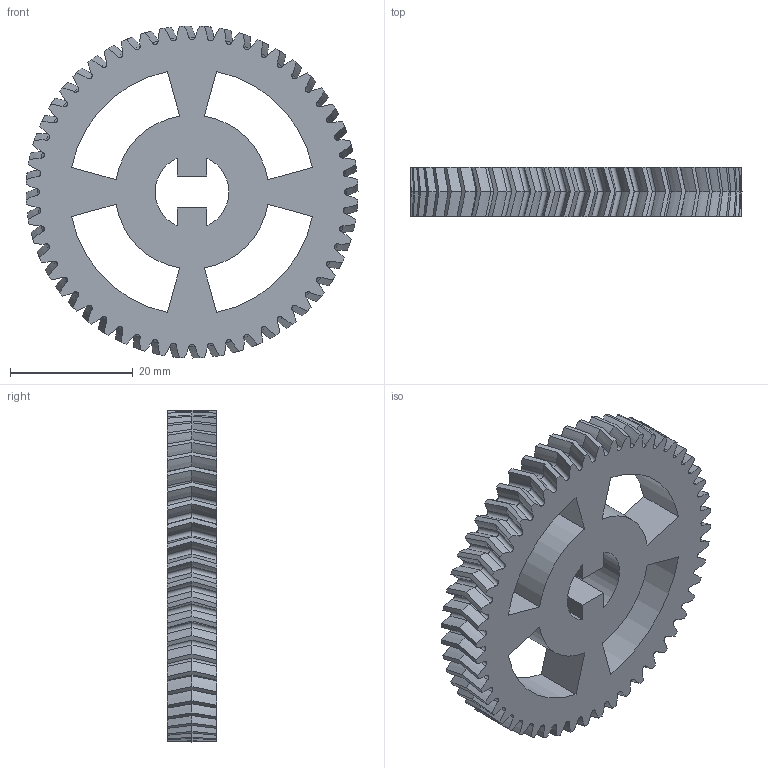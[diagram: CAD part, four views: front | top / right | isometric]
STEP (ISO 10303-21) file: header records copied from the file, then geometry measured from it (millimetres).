
FILE_DESCRIPTION (( 'STEP AP203' ), '1' );
FILE_NAME ('Spur gear (52 teeth).STEP', '2026-01-17T21:10:57', ( '' ), ( '' ), 'SwSTEP 2.0', 'SolidWorks 2026', '' );
FILE_SCHEMA (( 'CONFIG_CONTROL_DESIGN' ));
Length unit declared in the file: millimetre
Products named in the file (1): Spur gear (52 teeth)
Bounding box: 54 x 8 x 54 mm (x, y, z)
Volume: 11582 mm3; surface area: 7615.3 mm2
Topology: 1 solids, 1 shells, 390 faces, 1060 edges, 672 vertices
Faces by surface type: bspline 312, cylinder 62, plane 16
Entity records: 31559 total; most frequent: CARTESIAN_POINT 24847, ORIENTED_EDGE 2120, EDGE_CURVE 1060, VERTEX_POINT 672, DIRECTION 666, EDGE_LOOP 400, FACE_OUTER_BOUND 390, ADVANCED_FACE 390
